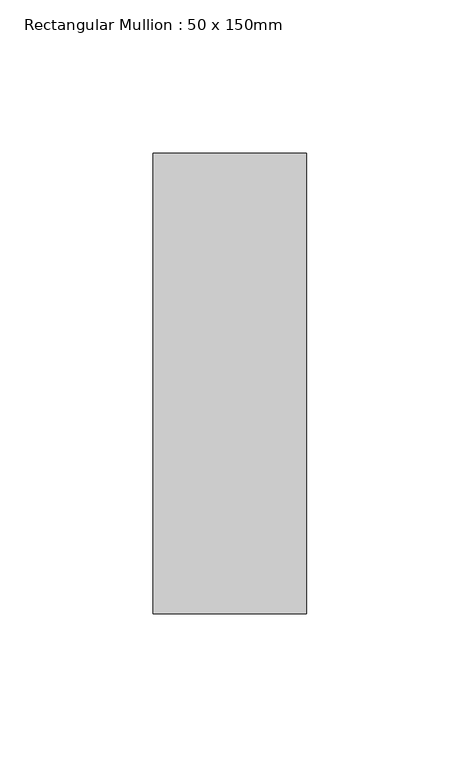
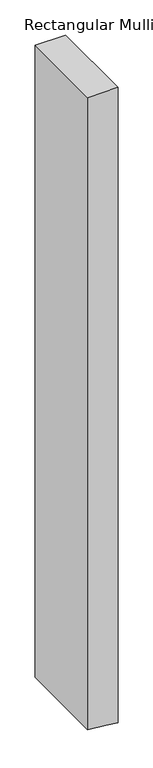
"""IFC4 building model written with IfcOpenShell, lengths in millimetres: member geometry, Rectangular Mullion : 50 x 150mm."""

from ifc_helpers import new_model, si_unit, frame, origin, place, context, project, spatial, polyline, outline, extrude, source, transform, mapped, element, save


def rectangular_mullion_50_x_150mm_45864f04(model_context):
    return source(origin(), model_context, "Body", "SweptSolid", [
        extrude(outline(polyline([(0.0, 25.0), (0.0, -25.0), (-1097.9958105, -25.0), (-1101.4759697, 5.6423937), (-1103.6744779, 25.0), (0.0, 25.0)])), frame((0.0, -75.0, 0.0), z_axis=(0.0, 1.0, 0.0), x_axis=(0.0, 0.0, 1.0)), (0.0, 0.0, 1.0), 150.0),
    ])


if __name__ == "__main__":
    model = new_model("IFC4")
    model_context = context("Model", 3, world=origin())
    ifc_project = project(units=[si_unit("LENGTHUNIT", "METRE", prefix="MILLI")], contexts=[model_context])
    site = spatial("IfcSite", under=ifc_project)
    building = spatial("IfcBuilding", under=site)
    placement = place(None, origin())
    rectangular_mullion_50_x_150mm_shape = rectangular_mullion_50_x_150mm_45864f04(model_context)
    element("IfcMember", 1, ObjectType="Rectangular Mullion : 50 x 150mm", at=placement, inside=building, context=model_context, shape_type="MappedRepresentation", body=[
        mapped(rectangular_mullion_50_x_150mm_shape, transform((0.0, 0.0, 0.0), x_axis=(1.0, 0.0, 0.0), y_axis=(0.0, 1.0, 0.0), z_axis=(0.0, 0.0, 1.0))),
    ])
    save(model, "model.ifc")
